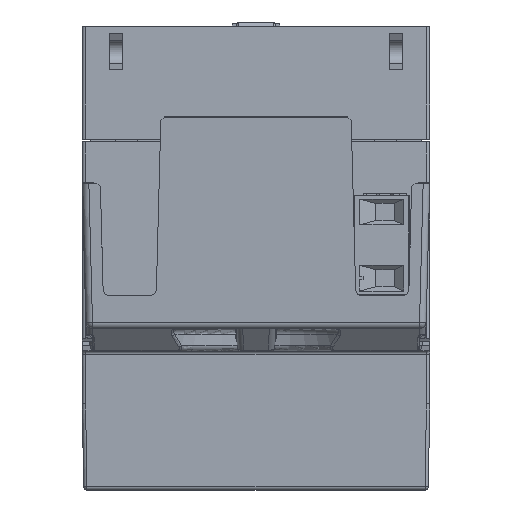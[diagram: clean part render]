
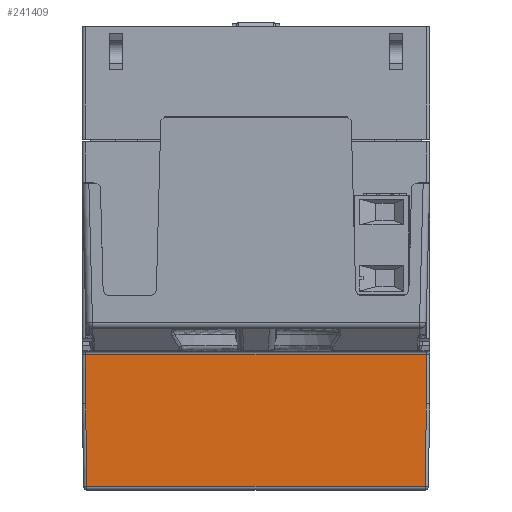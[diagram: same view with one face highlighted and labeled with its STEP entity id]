
A CAD part, front view. The second image highlights one B-rep face of the part: STEP entity #241409.
In plain terms, the highlighted planar face has unit normal (0, -1, -0.018).
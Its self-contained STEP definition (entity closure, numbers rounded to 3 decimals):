
#68396=CARTESIAN_POINT('',(-25.75,-22.5,
-40.));
#68398=DIRECTION('',(0.,0.017,-1.));
#68399=VECTOR('',#68398,7.51);
#68400=CARTESIAN_POINT('',(-25.75,-22.631,-32.491));
#68401=LINE('',#68400,#68399);
#70134=CARTESIAN_POINT('',(25.75,-22.5,
-40.));
#70147=DIRECTION('',(0.,-0.017,1.));
#70148=VECTOR('',#70147,7.51);
#70149=CARTESIAN_POINT('',(25.75,-22.5,
-40.));
#70150=LINE('',#70149,#70148);
#77979=DIRECTION('',(1.,0.,0.));
#77980=VECTOR('',#77979,51.063);
#77981=CARTESIAN_POINT('',(-25.532,-22.282,
-52.509));
#77982=LINE('',#77981,#77980);
#84118=DIRECTION('',(-0.017,0.017,-1.));
#84119=VECTOR('',#84118,12.513);
#84120=CARTESIAN_POINT('',(25.75,-22.5,
-40.));
#84121=LINE('',#84120,#84119);
#84122=DIRECTION('',(-0.017,-0.017,1.));
#84123=VECTOR('',#84122,12.513);
#84124=CARTESIAN_POINT('',(-25.532,-22.282,
-52.509));
#84125=LINE('',#84124,#84123);
#84130=DIRECTION('',(-1.,0.,0.));
#84131=VECTOR('',#84130,51.5);
#84132=CARTESIAN_POINT('',(25.75,-22.631,-32.491));
#84133=LINE('',#84132,#84131);
#114612=CARTESIAN_POINT('',(-25.75,-22.631,-32.491));
#114613=VERTEX_POINT('',#114612);
#114626=CARTESIAN_POINT('',(25.75,-22.631,-32.491));
#114627=VERTEX_POINT('',#114626);
#121969=CARTESIAN_POINT('',(25.532,-22.282,
-52.509));
#121970=VERTEX_POINT('',#121969);
#121979=CARTESIAN_POINT('',(-25.532,-22.282,
-52.509));
#121980=VERTEX_POINT('',#121979);
#124790=VERTEX_POINT('',#70134);
#124791=VERTEX_POINT('',#68396);
#241395=CARTESIAN_POINT('',(28.665,-22.5,-40.));
#241396=DIRECTION('',(0.,-1.,-0.017));
#241397=DIRECTION('',(-1.,0.,0.));
#241398=AXIS2_PLACEMENT_3D('',#241395,#241396,#241397);
#241399=PLANE('',#241398);
#241400=ORIENTED_EDGE('',*,*,#222389,.F.);
#241401=ORIENTED_EDGE('',*,*,#222405,.T.);
#241402=ORIENTED_EDGE('',*,*,#232108,.F.);
#241403=ORIENTED_EDGE('',*,*,#220141,.T.);
#241404=ORIENTED_EDGE('',*,*,#220158,.F.);
#241406=ORIENTED_EDGE('',*,*,#241405,.F.);
#241407=EDGE_LOOP('',(#241400,#241401,#241402,#241403,#241404,#241406));
#241408=FACE_OUTER_BOUND('',#241407,.F.);
#220141=EDGE_CURVE('',#121980,#124791,#84125,.T.);
#220158=EDGE_CURVE('',#114613,#124791,#68401,.T.);
#222389=EDGE_CURVE('',#124790,#114627,#70150,.T.);
#222405=EDGE_CURVE('',#124790,#121970,#84121,.T.);
#232108=EDGE_CURVE('',#121980,#121970,#77982,.T.);
#241405=EDGE_CURVE('',#114627,#114613,#84133,.T.);
#241409=ADVANCED_FACE('',(#241408),#241399,.T.);
